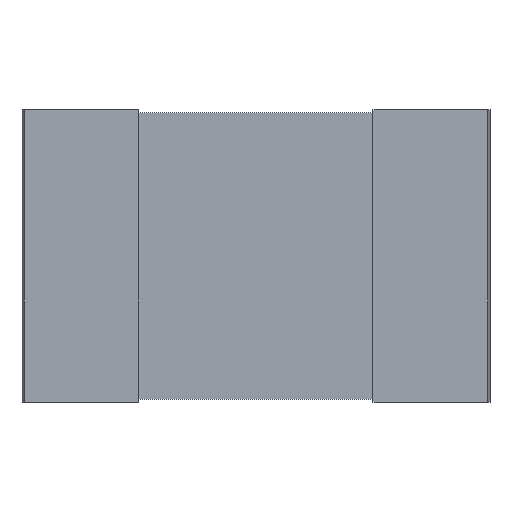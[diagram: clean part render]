
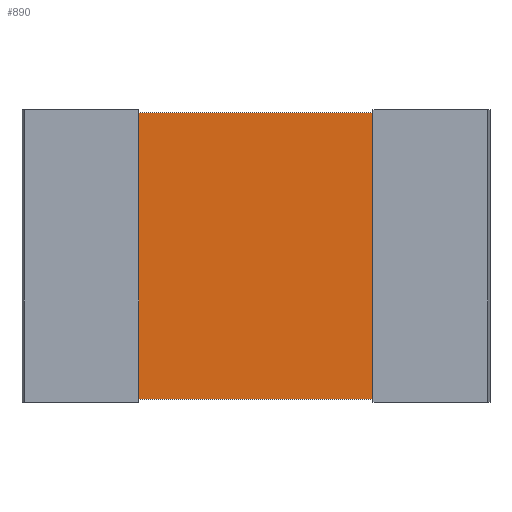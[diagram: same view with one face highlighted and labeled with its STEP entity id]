
A CAD part, top view. The second image highlights one B-rep face of the part: STEP entity #890.
In plain terms, the highlighted planar face has unit normal (0, 0, 1).
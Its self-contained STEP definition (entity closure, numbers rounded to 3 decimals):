
#217 = B_SPLINE_SURFACE_WITH_KNOTS('',1,1,(
    (#218,#219)
    ,(#220,#221
    )),.UNSPECIFIED.,.F.,.F.,.F.,(2,2),(2,2),(0.,0.381),(-1.27,0.),
  .PIECEWISE_BEZIER_KNOTS.);
#218 = CARTESIAN_POINT('',(-0.518,0.648,0.));
#219 = CARTESIAN_POINT('',(-0.518,-0.648,0.));
#220 = CARTESIAN_POINT('',(-0.518,0.648,0.389));
#221 = CARTESIAN_POINT('',(-0.518,-0.648,0.389));
#268 = PLANE('',#269);
#269 = AXIS2_PLACEMENT_3D('',#270,#271,#272);
#270 = CARTESIAN_POINT('',(-1.016,0.635,0.));
#271 = DIRECTION('',(0.,1.,0.));
#272 = DIRECTION('',(0.,0.,1.));
#297 = PLANE('',#298);
#298 = AXIS2_PLACEMENT_3D('',#299,#300,#301);
#299 = CARTESIAN_POINT('',(-1.016,-0.635,0.));
#300 = DIRECTION('',(0.,1.,0.));
#301 = DIRECTION('',(0.,0.,1.));
#492 = VERTEX_POINT('',#493);
#493 = CARTESIAN_POINT('',(-0.518,-0.635,0.381));
#511 = EDGE_CURVE('',#512,#492,#514,.T.);
#512 = VERTEX_POINT('',#513);
#513 = CARTESIAN_POINT('',(-0.518,0.635,0.381));
#514 = SURFACE_CURVE('',#515,(#518,#524),.PCURVE_S1.);
#515 = B_SPLINE_CURVE_WITH_KNOTS('',1,(#516,#517),.UNSPECIFIED.,.F.,.F.,
  (2,2),(0.,1.),.PIECEWISE_BEZIER_KNOTS.);
#516 = CARTESIAN_POINT('',(-0.518,0.635,0.381));
#517 = CARTESIAN_POINT('',(-0.518,-0.635,0.381));
#518 = PCURVE('',#217,#519);
#519 = DEFINITIONAL_REPRESENTATION('',(#520),#523);
#520 = B_SPLINE_CURVE_WITH_KNOTS('',1,(#521,#522),.UNSPECIFIED.,.F.,.F.,
  (2,2),(0.,1.),.PIECEWISE_BEZIER_KNOTS.);
#521 = CARTESIAN_POINT('',(0.374,-1.258));
#522 = CARTESIAN_POINT('',(0.374,-0.012));
#523 = ( GEOMETRIC_REPRESENTATION_CONTEXT(2) 
PARAMETRIC_REPRESENTATION_CONTEXT() REPRESENTATION_CONTEXT('2D SPACE',''
  ) );
#524 = PCURVE('',#525,#530);
#525 = PLANE('',#526);
#526 = AXIS2_PLACEMENT_3D('',#527,#528,#529);
#527 = CARTESIAN_POINT('',(-1.016,-0.635,0.381));
#528 = DIRECTION('',(0.,0.,1.));
#529 = DIRECTION('',(1.,0.,0.));
#530 = DEFINITIONAL_REPRESENTATION('',(#531),#534);
#531 = B_SPLINE_CURVE_WITH_KNOTS('',1,(#532,#533),.UNSPECIFIED.,.F.,.F.,
  (2,2),(0.,1.),.PIECEWISE_BEZIER_KNOTS.);
#532 = CARTESIAN_POINT('',(0.498,1.27));
#533 = CARTESIAN_POINT('',(0.498,0.));
#534 = ( GEOMETRIC_REPRESENTATION_CONTEXT(2) 
PARAMETRIC_REPRESENTATION_CONTEXT() REPRESENTATION_CONTEXT('2D SPACE',''
  ) );
#668 = EDGE_CURVE('',#512,#669,#671,.T.);
#669 = VERTEX_POINT('',#670);
#670 = CARTESIAN_POINT('',(0.518,0.635,0.381));
#671 = SURFACE_CURVE('',#672,(#676,#683),.PCURVE_S1.);
#672 = LINE('',#673,#674);
#673 = CARTESIAN_POINT('',(-1.016,0.635,0.381));
#674 = VECTOR('',#675,1.);
#675 = DIRECTION('',(1.,0.,0.));
#676 = PCURVE('',#268,#677);
#677 = DEFINITIONAL_REPRESENTATION('',(#678),#682);
#678 = LINE('',#679,#680);
#679 = CARTESIAN_POINT('',(0.381,0.));
#680 = VECTOR('',#681,1.);
#681 = DIRECTION('',(0.,1.));
#682 = ( GEOMETRIC_REPRESENTATION_CONTEXT(2) 
PARAMETRIC_REPRESENTATION_CONTEXT() REPRESENTATION_CONTEXT('2D SPACE',''
  ) );
#683 = PCURVE('',#525,#684);
#684 = DEFINITIONAL_REPRESENTATION('',(#685),#689);
#685 = LINE('',#686,#687);
#686 = CARTESIAN_POINT('',(0.,1.27));
#687 = VECTOR('',#688,1.);
#688 = DIRECTION('',(1.,0.));
#689 = ( GEOMETRIC_REPRESENTATION_CONTEXT(2) 
PARAMETRIC_REPRESENTATION_CONTEXT() REPRESENTATION_CONTEXT('2D SPACE',''
  ) );
#703 = B_SPLINE_SURFACE_WITH_KNOTS('',1,1,(
    (#704,#705)
    ,(#706,#707
    )),.UNSPECIFIED.,.F.,.F.,.F.,(2,2),(2,2),(0.,0.381),(-1.27,0.),
  .PIECEWISE_BEZIER_KNOTS.);
#704 = CARTESIAN_POINT('',(0.518,0.648,0.));
#705 = CARTESIAN_POINT('',(0.518,-0.648,0.));
#706 = CARTESIAN_POINT('',(0.518,0.648,0.389));
#707 = CARTESIAN_POINT('',(0.518,-0.648,0.389));
#795 = EDGE_CURVE('',#492,#796,#798,.T.);
#796 = VERTEX_POINT('',#797);
#797 = CARTESIAN_POINT('',(0.518,-0.635,0.381));
#798 = SURFACE_CURVE('',#799,(#803,#810),.PCURVE_S1.);
#799 = LINE('',#800,#801);
#800 = CARTESIAN_POINT('',(-1.016,-0.635,0.381));
#801 = VECTOR('',#802,1.);
#802 = DIRECTION('',(1.,0.,0.));
#803 = PCURVE('',#297,#804);
#804 = DEFINITIONAL_REPRESENTATION('',(#805),#809);
#805 = LINE('',#806,#807);
#806 = CARTESIAN_POINT('',(0.381,0.));
#807 = VECTOR('',#808,1.);
#808 = DIRECTION('',(0.,1.));
#809 = ( GEOMETRIC_REPRESENTATION_CONTEXT(2) 
PARAMETRIC_REPRESENTATION_CONTEXT() REPRESENTATION_CONTEXT('2D SPACE',''
  ) );
#810 = PCURVE('',#525,#811);
#811 = DEFINITIONAL_REPRESENTATION('',(#812),#816);
#812 = LINE('',#813,#814);
#813 = CARTESIAN_POINT('',(0.,0.));
#814 = VECTOR('',#815,1.);
#815 = DIRECTION('',(1.,0.));
#816 = ( GEOMETRIC_REPRESENTATION_CONTEXT(2) 
PARAMETRIC_REPRESENTATION_CONTEXT() REPRESENTATION_CONTEXT('2D SPACE',''
  ) );
#890 = ADVANCED_FACE('',(#891),#525,.T.);
#891 = FACE_BOUND('',#892,.T.);
#892 = EDGE_LOOP('',(#893,#894,#895,#896));
#893 = ORIENTED_EDGE('',*,*,#668,.F.);
#894 = ORIENTED_EDGE('',*,*,#511,.T.);
#895 = ORIENTED_EDGE('',*,*,#795,.T.);
#896 = ORIENTED_EDGE('',*,*,#897,.F.);
#897 = EDGE_CURVE('',#669,#796,#898,.T.);
#898 = SURFACE_CURVE('',#899,(#902,#908),.PCURVE_S1.);
#899 = B_SPLINE_CURVE_WITH_KNOTS('',1,(#900,#901),.UNSPECIFIED.,.F.,.F.,
  (2,2),(0.,1.),.PIECEWISE_BEZIER_KNOTS.);
#900 = CARTESIAN_POINT('',(0.518,0.635,0.381));
#901 = CARTESIAN_POINT('',(0.518,-0.635,0.381));
#902 = PCURVE('',#525,#903);
#903 = DEFINITIONAL_REPRESENTATION('',(#904),#907);
#904 = B_SPLINE_CURVE_WITH_KNOTS('',1,(#905,#906),.UNSPECIFIED.,.F.,.F.,
  (2,2),(0.,1.),.PIECEWISE_BEZIER_KNOTS.);
#905 = CARTESIAN_POINT('',(1.534,1.27));
#906 = CARTESIAN_POINT('',(1.534,0.));
#907 = ( GEOMETRIC_REPRESENTATION_CONTEXT(2) 
PARAMETRIC_REPRESENTATION_CONTEXT() REPRESENTATION_CONTEXT('2D SPACE',''
  ) );
#908 = PCURVE('',#703,#909);
#909 = DEFINITIONAL_REPRESENTATION('',(#910),#913);
#910 = B_SPLINE_CURVE_WITH_KNOTS('',1,(#911,#912),.UNSPECIFIED.,.F.,.F.,
  (2,2),(0.,1.),.PIECEWISE_BEZIER_KNOTS.);
#911 = CARTESIAN_POINT('',(0.374,-1.258));
#912 = CARTESIAN_POINT('',(0.374,-0.012));
#913 = ( GEOMETRIC_REPRESENTATION_CONTEXT(2) 
PARAMETRIC_REPRESENTATION_CONTEXT() REPRESENTATION_CONTEXT('2D SPACE',''
  ) );
